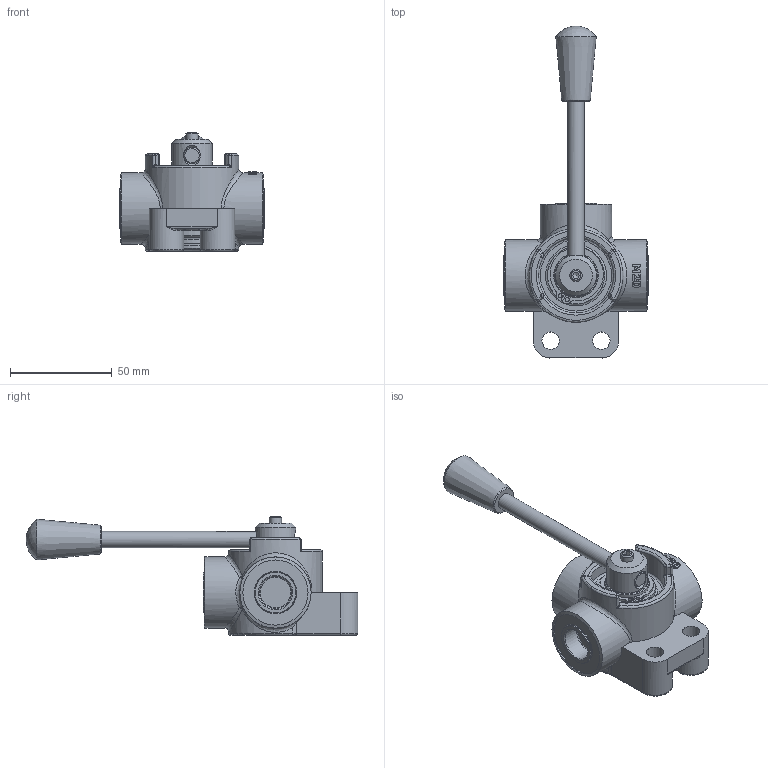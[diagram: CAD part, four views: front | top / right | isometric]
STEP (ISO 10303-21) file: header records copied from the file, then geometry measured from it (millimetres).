
FILE_DESCRIPTION((''),'2;1');
FILE_NAME('G:\HV_HYDRAULIC\AZIENDA_HV_HYDRAULIC\ARCHIVIO_DISEGNI\5_PRODOTTI_FINITI\2_DEVIATORI_INVERTITORI\7000_D3\7000.0200_D3_3-4_16_UNF_ca_(HV)\7000.0200.stp','2024-09-03T08:32:13',('christian.scardovi'),(''),'Autodesk Inventor 2013','Autodesk Inventor 2013','');
FILE_SCHEMA(('AUTOMOTIVE_DESIGN { 1 0 10303 214 1 1 1 1 }'));
Length unit declared in the file: millimetre
Products named in the file (1): 7000.0200
Bounding box: 71 x 163 x 58.25 mm (x, y, z)
Volume: 122874.1 mm3; surface area: 29006.3 mm2
Topology: 1 solids, 1 shells, 312 faces, 755 edges, 446 vertices
Faces by surface type: cylinder 95, plane 76, bspline 59, torus 51, cone 22, sphere 9
Full cylindrical faces by diameter (mm): 2 x4, 4 x2, 6 x1, 8 x1, 8.5 x2, 16 x3, 18 x3, 20 x4, 21 x2, 21.9 x2, 22 x1, 28 x2, 32 x3, 35 x3, 37 x1, 46 x1
Entity records: 16213 total; most frequent: CARTESIAN_POINT 9405, DIRECTION 1306, ORIENTED_EDGE 1262, EDGE_CURVE 631, AXIS2_PLACEMENT_3D 566, VERTEX_POINT 417, EDGE_LOOP 414, CIRCLE 312
